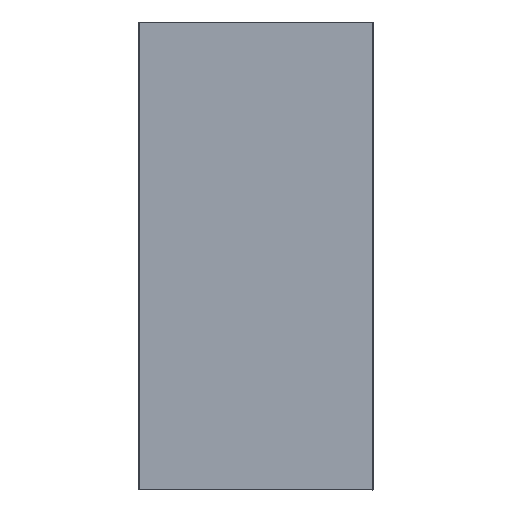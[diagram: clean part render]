
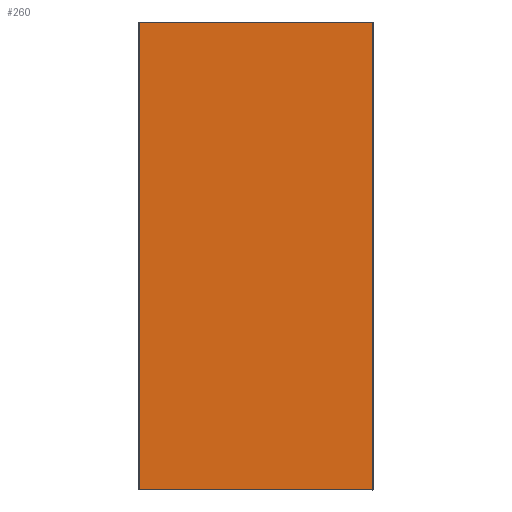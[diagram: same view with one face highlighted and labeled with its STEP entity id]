
A CAD part, front view. The second image highlights one B-rep face of the part: STEP entity #260.
In plain terms, the highlighted free-form (B-spline) face has degree [1, 1] with [2, 2] control points.
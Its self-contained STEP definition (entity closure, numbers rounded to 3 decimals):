
#260=ADVANCED_FACE('',(#538),#4714,.T.);
#538=FACE_OUTER_BOUND('',#816,.T.);
#816=EDGE_LOOP('',(#1377,#1378,#1379,#1380,#1381,#1382,#1383,#1384));
#1377=ORIENTED_EDGE('',*,*,#2755,.F.);
#1378=ORIENTED_EDGE('',*,*,#2759,.F.);
#1379=ORIENTED_EDGE('',*,*,#2762,.F.);
#1380=ORIENTED_EDGE('',*,*,#2765,.F.);
#1381=ORIENTED_EDGE('',*,*,#2768,.F.);
#1382=ORIENTED_EDGE('',*,*,#2771,.F.);
#1383=ORIENTED_EDGE('',*,*,#2774,.F.);
#1384=ORIENTED_EDGE('',*,*,#2776,.T.);
#2755=EDGE_CURVE('',#4255,#4256,#3894,.T.);
#2759=EDGE_CURVE('',#4258,#4255,#3459,.T.);
#2762=EDGE_CURVE('',#4260,#4258,#3896,.T.);
#2765=EDGE_CURVE('',#4262,#4260,#3463,.T.);
#2768=EDGE_CURVE('',#4264,#4262,#3898,.T.);
#2771=EDGE_CURVE('',#4266,#4264,#3467,.T.);
#2774=EDGE_CURVE('',#4268,#4266,#3900,.T.);
#2776=EDGE_CURVE('',#4268,#4256,#3470,.T.);
#3459=B_SPLINE_CURVE_WITH_KNOTS('',1,(#7501,#7502),.UNSPECIFIED.,.F.,.F.,
(2,2),(0.,1996.),.UNSPECIFIED.);
#3463=B_SPLINE_CURVE_WITH_KNOTS('',1,(#7515,#7516),.UNSPECIFIED.,.F.,.F.,
(2,2),(0.,996.),.UNSPECIFIED.);
#3467=B_SPLINE_CURVE_WITH_KNOTS('',1,(#7529,#7530),.UNSPECIFIED.,.F.,.F.,
(2,2),(0.,1996.),.UNSPECIFIED.);
#3470=B_SPLINE_CURVE_WITH_KNOTS('',1,(#7541,#7542),.UNSPECIFIED.,.F.,.F.,
(2,2),(-996.,0.),.UNSPECIFIED.);
#3894=(
BOUNDED_CURVE()
B_SPLINE_CURVE(2,(#7492,#7493,#7494),.UNSPECIFIED.,.F.,.F.)
B_SPLINE_CURVE_WITH_KNOTS((3,3),(0.,3.142),.UNSPECIFIED.)
CURVE()
GEOMETRIC_REPRESENTATION_ITEM()
RATIONAL_B_SPLINE_CURVE((1.,0.707,1.))
REPRESENTATION_ITEM('')
);
#3896=(
BOUNDED_CURVE()
B_SPLINE_CURVE(2,(#7508,#7509,#7510),.UNSPECIFIED.,.F.,.F.)
B_SPLINE_CURVE_WITH_KNOTS((3,3),(0.,3.142),.UNSPECIFIED.)
CURVE()
GEOMETRIC_REPRESENTATION_ITEM()
RATIONAL_B_SPLINE_CURVE((1.,0.707,1.))
REPRESENTATION_ITEM('')
);
#3898=(
BOUNDED_CURVE()
B_SPLINE_CURVE(2,(#7522,#7523,#7524),.UNSPECIFIED.,.F.,.F.)
B_SPLINE_CURVE_WITH_KNOTS((3,3),(0.,3.142),.UNSPECIFIED.)
CURVE()
GEOMETRIC_REPRESENTATION_ITEM()
RATIONAL_B_SPLINE_CURVE((1.,0.707,1.))
REPRESENTATION_ITEM('')
);
#3900=(
BOUNDED_CURVE()
B_SPLINE_CURVE(2,(#7536,#7537,#7538),.UNSPECIFIED.,.F.,.F.)
B_SPLINE_CURVE_WITH_KNOTS((3,3),(0.,3.142),.UNSPECIFIED.)
CURVE()
GEOMETRIC_REPRESENTATION_ITEM()
RATIONAL_B_SPLINE_CURVE((1.,0.707,1.))
REPRESENTATION_ITEM('')
);
#4255=VERTEX_POINT('',#7473);
#4256=VERTEX_POINT('',#7474);
#4258=VERTEX_POINT('',#7476);
#4260=VERTEX_POINT('',#7478);
#4262=VERTEX_POINT('',#7480);
#4264=VERTEX_POINT('',#7482);
#4266=VERTEX_POINT('',#7484);
#4268=VERTEX_POINT('',#7486);
#4714=B_SPLINE_SURFACE_WITH_KNOTS('',1,1,((#7467,#7468),(#7469,#7470)),
 .UNSPECIFIED.,.F.,.F.,.F.,(2,2),(2,2),(0.012,1200.036),
(0.012,2400.036),.UNSPECIFIED.);
#7467=CARTESIAN_POINT('',(-1225.676,-460.896,-1422.902));
#7468=CARTESIAN_POINT('',(-1225.676,-460.896,977.122));
#7469=CARTESIAN_POINT('',(-25.652,-460.896,-1422.902));
#7470=CARTESIAN_POINT('',(-25.652,-460.896,977.122));
#7473=CARTESIAN_POINT('',(-1125.664,-460.896,775.11));
#7474=CARTESIAN_POINT('',(-1123.664,-460.896,777.11));
#7476=CARTESIAN_POINT('',(-1125.664,-460.896,-1220.89));
#7478=CARTESIAN_POINT('',(-1123.664,-460.896,-1222.89));
#7480=CARTESIAN_POINT('',(-127.664,-460.896,-1222.89));
#7482=CARTESIAN_POINT('',(-125.664,-460.896,-1220.89));
#7484=CARTESIAN_POINT('',(-125.664,-460.896,775.11));
#7486=CARTESIAN_POINT('',(-127.664,-460.896,777.11));
#7492=CARTESIAN_POINT('',(-1125.664,-460.896,775.11));
#7493=CARTESIAN_POINT('',(-1125.664,-460.896,777.11));
#7494=CARTESIAN_POINT('',(-1123.664,-460.896,777.11));
#7501=CARTESIAN_POINT('',(-1125.664,-460.896,-1220.89));
#7502=CARTESIAN_POINT('',(-1125.664,-460.896,775.11));
#7508=CARTESIAN_POINT('',(-1123.664,-460.896,-1222.89));
#7509=CARTESIAN_POINT('',(-1125.664,-460.896,-1222.89));
#7510=CARTESIAN_POINT('',(-1125.664,-460.896,-1220.89));
#7515=CARTESIAN_POINT('',(-127.664,-460.896,-1222.89));
#7516=CARTESIAN_POINT('',(-1123.664,-460.896,-1222.89));
#7522=CARTESIAN_POINT('',(-125.664,-460.896,-1220.89));
#7523=CARTESIAN_POINT('',(-125.664,-460.896,-1222.89));
#7524=CARTESIAN_POINT('',(-127.664,-460.896,-1222.89));
#7529=CARTESIAN_POINT('',(-125.664,-460.896,775.11));
#7530=CARTESIAN_POINT('',(-125.664,-460.896,-1220.89));
#7536=CARTESIAN_POINT('',(-127.664,-460.896,777.11));
#7537=CARTESIAN_POINT('',(-125.664,-460.896,777.11));
#7538=CARTESIAN_POINT('',(-125.664,-460.896,775.11));
#7541=CARTESIAN_POINT('',(-127.664,-460.896,777.11));
#7542=CARTESIAN_POINT('',(-1123.664,-460.896,777.11));
